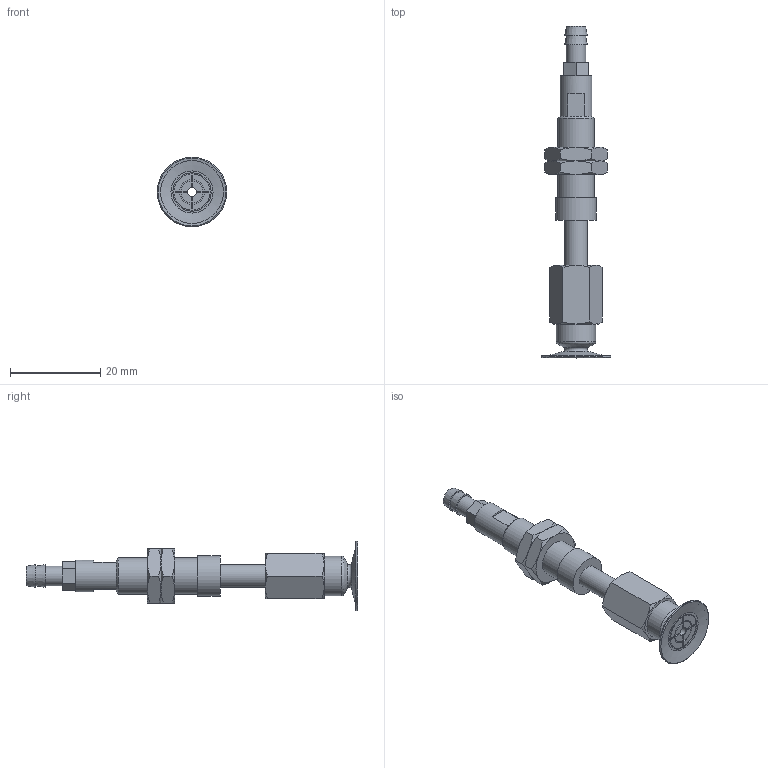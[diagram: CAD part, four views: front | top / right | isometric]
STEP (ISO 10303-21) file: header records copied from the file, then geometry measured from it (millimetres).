
FILE_DESCRIPTION(('STEP AP203'),'1');
FILE_NAME('-T.stp','2025-08-26T08:52:30',(' '),(' '),'Spatial InterOp 3D',' ',' ');
FILE_SCHEMA(('CONFIG_CONTROL_DESIGN'));
Length unit declared in the file: millimetre
Products named in the file (7): BNABPATS-15B-10-※-T; ADAPTER; NAPATS-10A-10--M; NAPATS-10A-10--F; Nut-10A-S; BPAG-15B-※_3D; T
Assembly tree (7 placements, depth 2):
  BNABPATS-15B-10-※-T
    ADAPTER
    NAPATS-10A-10--M
    NAPATS-10A-10--F
    Nut-10A-S  x2
    BPAG-15B-※_3D
    T
Bounding box: 15.4 x 73.5 x 15.4 mm (x, y, z)
Volume: 3696.7 mm3; surface area: 4728.1 mm2
Topology: 7 solids, 7 shells, 173 faces, 380 edges, 232 vertices
Faces by surface type: plane 73, cone 58, cylinder 32, torus 10
Full cylindrical faces by diameter (mm): 2 x3, 3 x1, 4 x2, 4.134 x1, 4.3 x1, 5 x3, 6 x2, 7 x1, 7.188 x2, 8 x1, 8.5 x1, 8.7 x1, 9 x1
Entity records: 4410 total; most frequent: CARTESIAN_POINT 997, DIRECTION 648, ORIENTED_EDGE 558, EDGE_CURVE 279, AXIS2_PLACEMENT_3D 274, EDGE_LOOP 214, VERTEX_POINT 193, FACE_OUTER_BOUND 179
